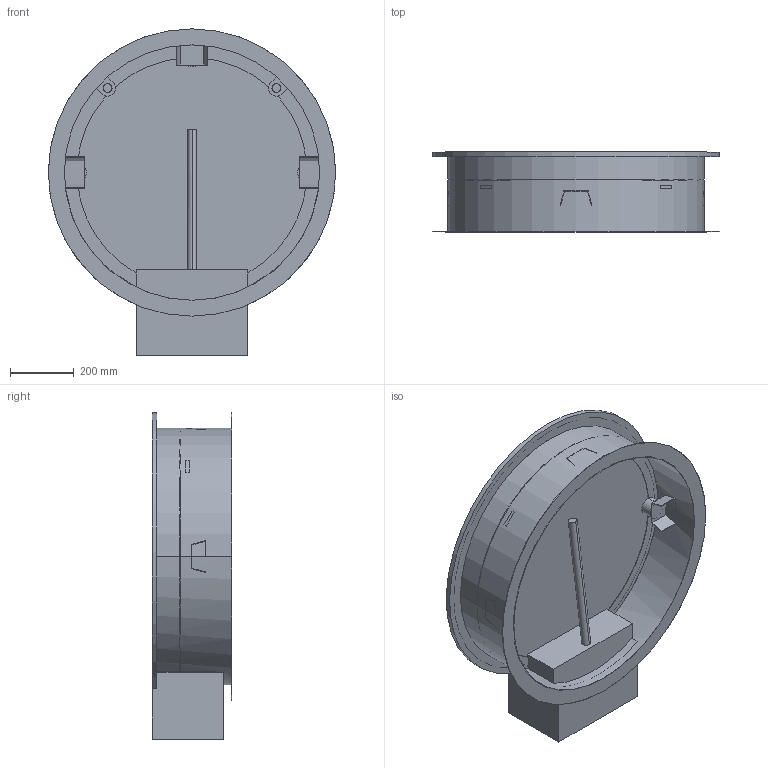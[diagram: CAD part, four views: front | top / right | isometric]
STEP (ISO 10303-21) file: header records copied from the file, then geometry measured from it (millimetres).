
FILE_DESCRIPTION((''),'2;1');
FILE_NAME('52342878','2025-02-04T07:42:13',('hrl'),('HUBER SE'),'CREO PARAMETRIC BY PTC INC, 2022162','CREO PARAMETRIC BY PTC INC, 2022162','');
FILE_SCHEMA(('AUTOMOTIVE_DESIGN { 1 0 10303 214 1 1 1 1 }'));
Length unit declared in the file: millimetre
Products named in the file (1): 52342878
Bounding box: 900 x 250 x 1021.91 mm (x, y, z)
Volume: 61656805.8 mm3; surface area: 3473450.9 mm2
Topology: 3 solids, 3 shells, 111 faces, 276 edges, 184 vertices
Faces by surface type: plane 67, cylinder 44
Entity records: 4043 total; most frequent: CARTESIAN_POINT 649, DIRECTION 586, ORIENTED_EDGE 552, EDGE_CURVE 276, AXIS2_PLACEMENT_3D 219, VERTEX_POINT 184, VECTOR 148, LINE 148
